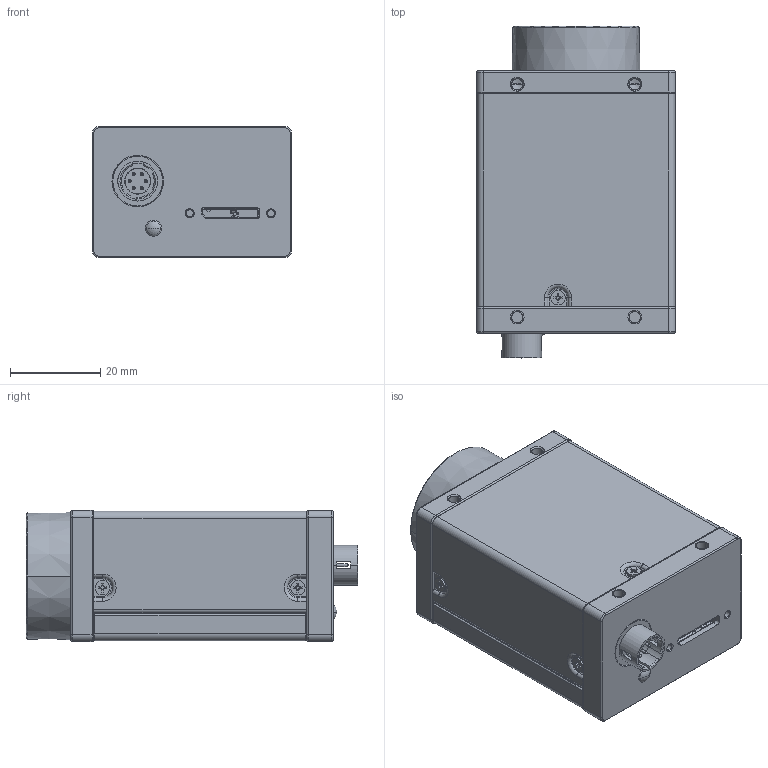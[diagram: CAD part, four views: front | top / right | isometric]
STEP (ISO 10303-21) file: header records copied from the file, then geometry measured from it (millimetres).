
FILE_DESCRIPTION((''),'2;1');
FILE_NAME('29X44X58-5040-USB-3D','2025-04-17T11:29:01',('331929'),(''),'CREO PARAMETRIC BY PTC INC, 2020184','CREO PARAMETRIC BY PTC INC, 2020184','');
FILE_SCHEMA(('CONFIG_CONTROL_DESIGN','SHAPE_APPEARANCE_LAYERS_GROUPS'));
Products named in the file (1): 29X44X58-5040-USB-3D
Bounding box: 44 x 73.4 x 29 mm (x, y, z)
Volume: 70266.2 mm3; surface area: 26584.9 mm2
Topology: 2 solids, 59 shells, 2306 faces, 6550 edges, 4308 vertices
Faces by surface type: plane 1202, cylinder 780, cone 146, torus 88, bspline 82, extrusion 6, sphere 2
Entity records: 103482 total; most frequent: CARTESIAN_POINT 18254, ORIENTED_EDGE 12920, DIRECTION 12261, PRESENTATION_STYLE_ASSIGNMENT 7235, STYLED_ITEM 6573, CURVE_STYLE 6534, EDGE_CURVE 6534, VERTEX_POINT 4308
